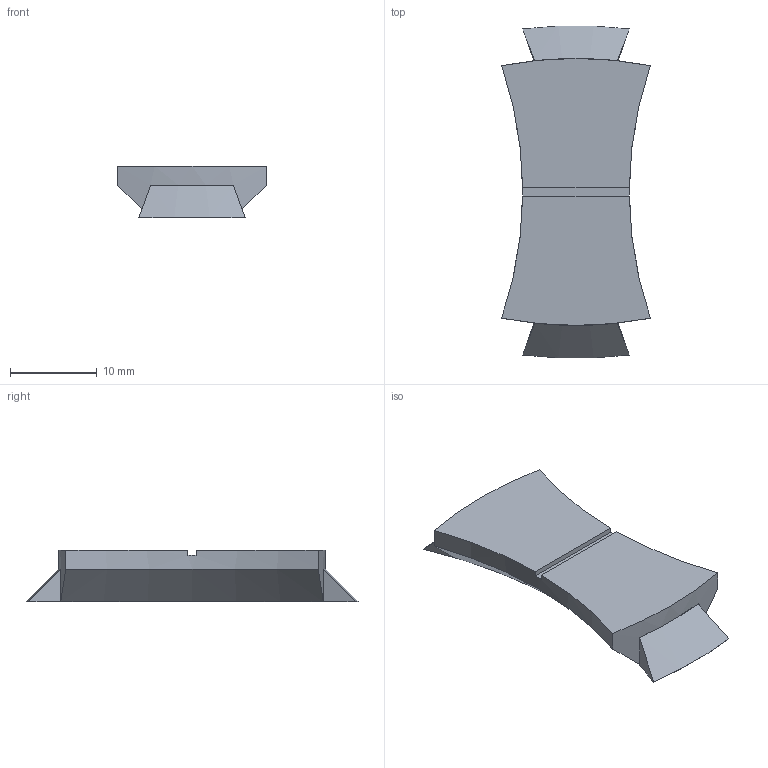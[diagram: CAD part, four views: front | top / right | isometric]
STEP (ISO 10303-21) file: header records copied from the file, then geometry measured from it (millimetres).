
FILE_DESCRIPTION(('FreeCAD Model'),'2;1');
FILE_NAME('Open CASCADE Shape Model','2025-12-23T13:35:00',(''),(''), 'Open CASCADE STEP processor 7.8','FreeCAD','Unknown');
FILE_SCHEMA(('AUTOMOTIVE_DESIGN { 1 0 10303 214 1 1 1 1 }'));
Length unit declared in the file: millimetre
Products named in the file (1): Body
Bounding box: 17.17 x 38.32 x 6 mm (x, y, z)
Volume: 2252.9 mm3; surface area: 1423.6 mm2
Topology: 1 solids, 1 shells, 22 faces, 60 edges, 40 vertices
Faces by surface type: plane 10, cylinder 8, cone 4
Entity records: 762 total; most frequent: CARTESIAN_POINT 171, DIRECTION 126, ORIENTED_EDGE 120, EDGE_CURVE 60, AXIS2_PLACEMENT_3D 55, VERTEX_POINT 40, CIRCLE 32, ADVANCED_FACE 22
